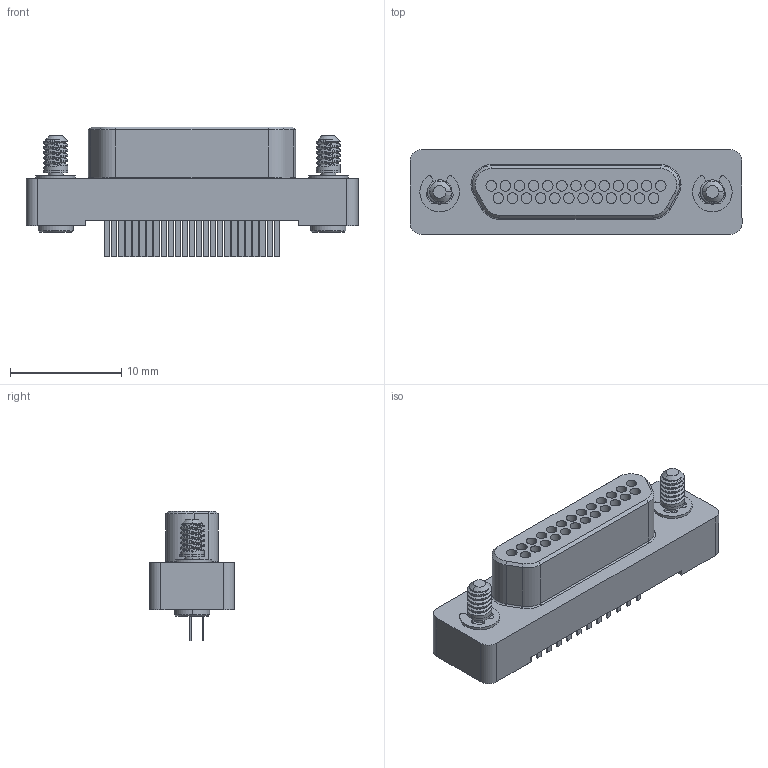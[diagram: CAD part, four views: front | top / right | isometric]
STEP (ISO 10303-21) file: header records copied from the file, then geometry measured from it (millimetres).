
FILE_DESCRIPTION (( 'STEP AP214' ), '1' );
FILE_NAME ('A98061-025 REV B.STEP', '2015-12-28T22:40:46', ( '' ), ( '' ), 'SwSTEP 2.0', 'SolidWorks 2015', '' );
FILE_SCHEMA (( 'AUTOMOTIVE_DESIGN' ));
Length unit declared in the file: inch
Products named in the file (1): A98061-025 REV A
Bounding box: 29.84 x 7.63 x 11.68 mm (x, y, z)
Volume: 1184.7 mm3; surface area: 1587 mm2
Topology: 1 solids, 1 shells, 634 faces, 1538 edges, 982 vertices
Faces by surface type: plane 325, cylinder 183, cone 67, bspline 54, torus 5
Entity records: 22365 total; most frequent: CARTESIAN_POINT 7683, ORIENTED_EDGE 3076, DIRECTION 2905, EDGE_CURVE 1538, VECTOR 1025, LINE 1025, VERTEX_POINT 982, AXIS2_PLACEMENT_3D 940
